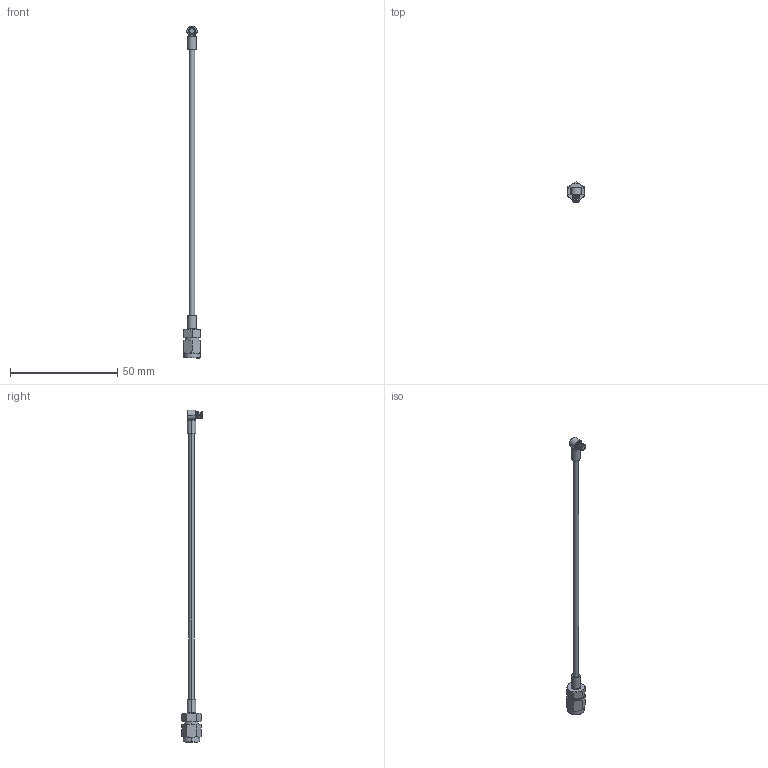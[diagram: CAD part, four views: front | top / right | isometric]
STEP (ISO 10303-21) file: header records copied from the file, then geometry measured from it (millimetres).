
FILE_DESCRIPTION (( 'STEP AP214' ), '1' );
FILE_NAME ('7012-1287.STEP', '2019-02-05T13:21:48', ( '' ), ( '' ), 'SwSTEP 2.0', 'SolidWorks 2016', '' );
FILE_SCHEMA (( 'AUTOMOTIVE_DESIGN' ));
Length unit declared in the file: inch
Products named in the file (1): 7012-1287
Bounding box: 7.92 x 9.58 x 154.79 mm (x, y, z)
Volume: 1461.8 mm3; surface area: 2001.2 mm2
Topology: 2 solids, 4 shells, 153 faces, 378 edges, 243 vertices
Faces by surface type: cylinder 53, plane 44, cone 36, torus 20
Entity records: 6790 total; most frequent: CARTESIAN_POINT 1369, ORIENTED_EDGE 756, DIRECTION 738, EDGE_CURVE 378, AXIS2_PLACEMENT_3D 307, VERTEX_POINT 243, EDGE_LOOP 167, CIRCLE 153
